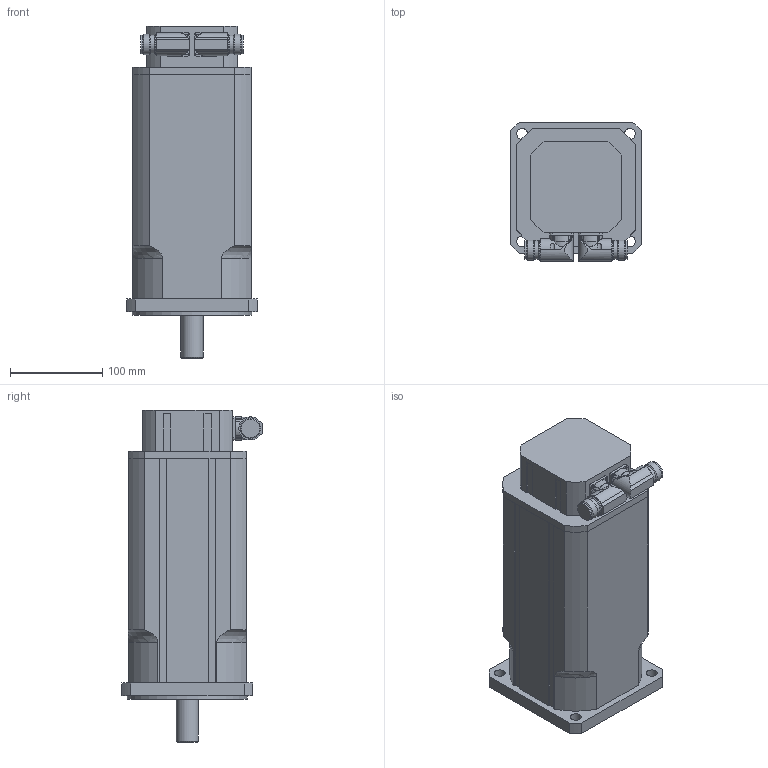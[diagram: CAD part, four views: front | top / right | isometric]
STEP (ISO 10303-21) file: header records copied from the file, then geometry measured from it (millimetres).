
FILE_DESCRIPTION(/* description */ ('Alibre Inc.'),/* implementation_level */ '2;1');
FILE_NAME(/* name */ 'export0',/* time_stamp */ '2011-07-28T14:06:16+02:00',/* author */ (''),/* organization */ (''),/* preprocessor_version */ 'ST-DEVELOPER v12',/* originating_system */ 'Alibre',/* authorisation */ '');
FILE_SCHEMA (('AUTOMOTIVE_DESIGN'));
Length unit declared in the file: millimetre
Products named in the file (4): ID_1
Bounding box: 142 x 152 x 360 mm (x, y, z)
Volume: 4669751.6 mm3; surface area: 242468.1 mm2
Topology: 4 solids, 4 shells, 232 faces, 633 edges, 420 vertices
Faces by surface type: cylinder 108, plane 99, bspline 13, cone 8, torus 4
Full cylindrical faces by diameter (mm): 2.7 x8, 20 x6, 22 x4, 24 x1, 130 x1
Entity records: 5838 total; most frequent: CARTESIAN_POINT 1735, ORIENTED_EDGE 828, DIRECTION 777, EDGE_CURVE 414, AXIS2_PLACEMENT_3D 312, VERTEX_POINT 290, VECTOR 231, LINE 231
